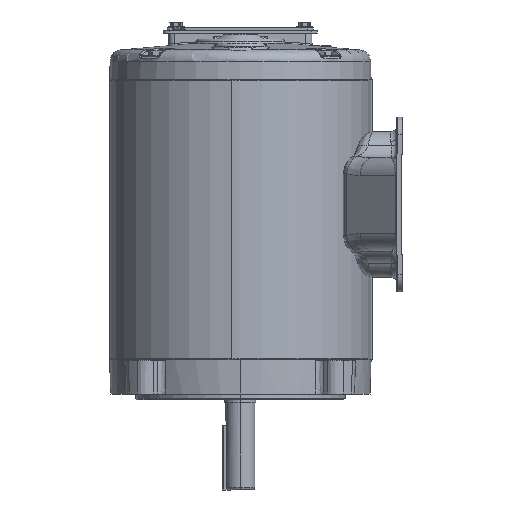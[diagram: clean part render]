
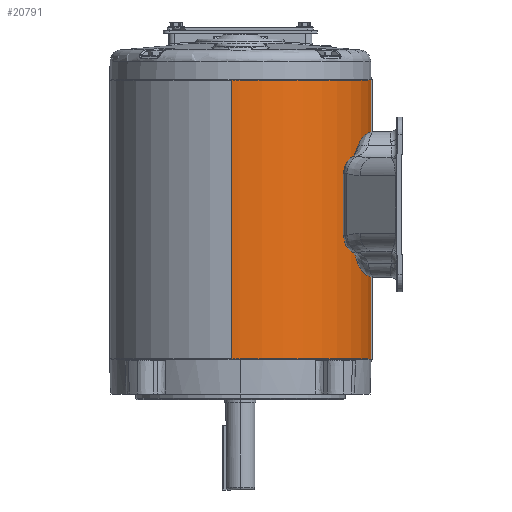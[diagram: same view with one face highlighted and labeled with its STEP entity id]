
A CAD part, left-side view. The second image highlights one B-rep face of the part: STEP entity #20791.
In plain terms, the highlighted cylindrical face has radius 71.369 mm (diameter 142.738 mm), a partial arc.
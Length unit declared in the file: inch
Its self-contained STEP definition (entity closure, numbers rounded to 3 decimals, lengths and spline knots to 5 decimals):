
#481 = ORIENTED_EDGE ( 'NONE', *, *, #52840, .T. ) ;
#1240 = DIRECTION ( 'NONE',  ( 0., 0., 1. ) ) ;
#4172 = CYLINDRICAL_SURFACE ( 'NONE', #95095, 2.8098 ) ;
#5986 = ORIENTED_EDGE ( 'NONE', *, *, #82827, .T. ) ;
#6784 = VERTEX_POINT ( 'NONE', #22197 ) ;
#8672 = EDGE_CURVE ( 'NONE', #6784, #67255, #81467, .T. ) ;
#9482 = ORIENTED_EDGE ( 'NONE', *, *, #37515, .T. ) ;
#10393 = CARTESIAN_POINT ( 'NONE',  ( -0.18377, -2.80378, -0.5344 ) ) ;
#11308 = CIRCLE ( 'NONE', #71858, 2.8098 ) ;
#12872 = AXIS2_PLACEMENT_3D ( 'NONE', #68913, #53915, #85898 ) ;
#13515 = CARTESIAN_POINT ( 'NONE',  ( -2.8098, 0., -6.6094 ) ) ;
#16907 = CARTESIAN_POINT ( 'NONE',  ( 0., 0., -6.6094 ) ) ;
#17567 = CARTESIAN_POINT ( 'NONE',  ( 0., 0., 14.36545 ) ) ;
#19258 = DIRECTION ( 'NONE',  ( 0., 0., -1. ) ) ;
#20791 = ADVANCED_FACE ( 'NONE', ( #43166 ), #4172, .T. ) ;
#22197 = CARTESIAN_POINT ( 'NONE',  ( -2.80378, 0.18377, -0.6294 ) ) ;
#24590 = ORIENTED_EDGE ( 'NONE', *, *, #50267, .T. ) ;
#25202 = LINE ( 'NONE', #10393, #67795 ) ;
#26274 = CARTESIAN_POINT ( 'NONE',  ( 0., 0., -6.6094 ) ) ;
#26432 = DIRECTION ( 'NONE',  ( -0.998, 0.065, 0. ) ) ;
#26602 = DIRECTION ( 'NONE',  ( 0., 0., 1. ) ) ;
#34413 = CARTESIAN_POINT ( 'NONE',  ( -2.8098, 0., -0.6294 ) ) ;
#34815 = CARTESIAN_POINT ( 'NONE',  ( -2.80378, 0.18377, -6.6094 ) ) ;
#37515 = EDGE_CURVE ( 'NONE', #52183, #6784, #46371, .T. ) ;
#41410 = EDGE_CURVE ( 'NONE', #51240, #91004, #25202, .T. ) ;
#42240 = DIRECTION ( 'NONE',  ( -1., 0., 0. ) ) ;
#43166 = FACE_OUTER_BOUND ( 'NONE', #80112, .T. ) ;
#44882 = CIRCLE ( 'NONE', #88685, 2.8098 ) ;
#46371 = CIRCLE ( 'NONE', #12872, 2.8098 ) ;
#48842 = DIRECTION ( 'NONE',  ( 0., 0., -1. ) ) ;
#48986 = CARTESIAN_POINT ( 'NONE',  ( -2.80378, 0.18377, 14.36545 ) ) ;
#49820 = VECTOR ( 'NONE', #64571, 39.37008 ) ;
#50267 = EDGE_CURVE ( 'NONE', #51240, #52183, #44882, .T. ) ;
#51240 = VERTEX_POINT ( 'NONE', #75011 ) ;
#52183 = VERTEX_POINT ( 'NONE', #34413 ) ;
#52840 = EDGE_CURVE ( 'NONE', #67936, #91004, #99293, .T. ) ;
#53915 = DIRECTION ( 'NONE',  ( 0., 0., -1. ) ) ;
#54957 = DIRECTION ( 'NONE',  ( -1., 0., 0. ) ) ;
#57935 = ORIENTED_EDGE ( 'NONE', *, *, #41410, .F. ) ;
#64571 = DIRECTION ( 'NONE',  ( 0., 0., -1. ) ) ;
#64736 = ORIENTED_EDGE ( 'NONE', *, *, #8672, .T. ) ;
#64926 = CARTESIAN_POINT ( 'NONE',  ( -0.18377, -2.80378, -6.6094 ) ) ;
#67255 = VERTEX_POINT ( 'NONE', #34815 ) ;
#67795 = VECTOR ( 'NONE', #19258, 39.37008 ) ;
#67936 = VERTEX_POINT ( 'NONE', #13515 ) ;
#68913 = CARTESIAN_POINT ( 'NONE',  ( 0., 0., -0.6294 ) ) ;
#71858 = AXIS2_PLACEMENT_3D ( 'NONE', #26274, #26602, #42240 ) ;
#72977 = DIRECTION ( 'NONE',  ( 0., 0., -1. ) ) ;
#73307 = DIRECTION ( 'NONE',  ( 1., 0., 0. ) ) ;
#74531 = AXIS2_PLACEMENT_3D ( 'NONE', #16907, #1240, #54957 ) ;
#75011 = CARTESIAN_POINT ( 'NONE',  ( -0.18377, -2.80378, -0.6294 ) ) ;
#80112 = EDGE_LOOP ( 'NONE', ( #24590, #9482, #64736, #5986, #481, #57935 ) ) ;
#81467 = LINE ( 'NONE', #48986, #49820 ) ;
#82827 = EDGE_CURVE ( 'NONE', #67255, #67936, #11308, .T. ) ;
#85898 = DIRECTION ( 'NONE',  ( 1., 0., 0. ) ) ;
#87931 = CARTESIAN_POINT ( 'NONE',  ( 0., 0., -0.6294 ) ) ;
#88685 = AXIS2_PLACEMENT_3D ( 'NONE', #87931, #48842, #73307 ) ;
#91004 = VERTEX_POINT ( 'NONE', #64926 ) ;
#95095 = AXIS2_PLACEMENT_3D ( 'NONE', #17567, #72977, #26432 ) ;
#99293 = CIRCLE ( 'NONE', #74531, 2.8098 ) ;
